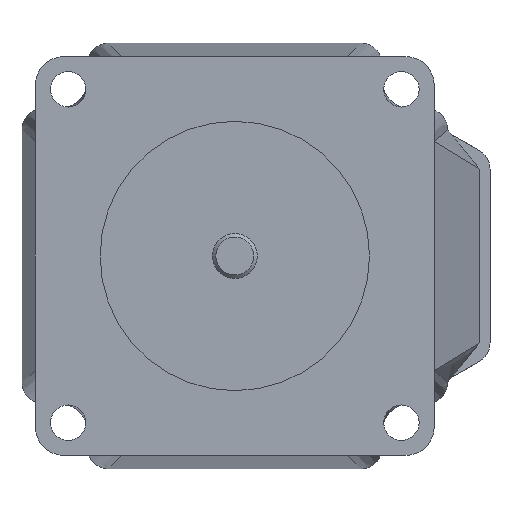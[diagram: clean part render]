
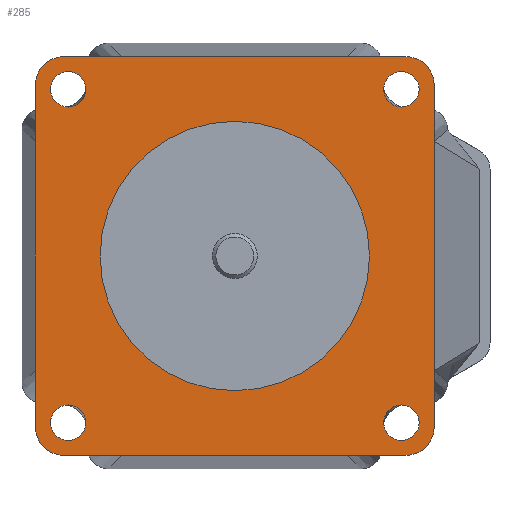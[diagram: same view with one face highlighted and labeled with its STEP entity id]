
A CAD part, left-side view. The second image highlights one B-rep face of the part: STEP entity #285.
In plain terms, the highlighted planar face has unit normal (-1, 0, 0).
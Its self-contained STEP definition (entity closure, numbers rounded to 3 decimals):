
#285 = ADVANCED_FACE( '', ( #781, #782, #783, #784, #785, #786 ), #787, .T. );
#781 = FACE_BOUND( '', #2932, .T. );
#782 = FACE_BOUND( '', #2933, .T. );
#783 = FACE_BOUND( '', #2934, .T. );
#784 = FACE_BOUND( '', #2935, .T. );
#785 = FACE_OUTER_BOUND( '', #2936, .T. );
#786 = FACE_BOUND( '', #2937, .T. );
#787 = PLANE( '', #2938 );
#2932 = EDGE_LOOP( '', ( #4414 ) );
#2933 = EDGE_LOOP( '', ( #4415 ) );
#2934 = EDGE_LOOP( '', ( #4416 ) );
#2935 = EDGE_LOOP( '', ( #4417 ) );
#2936 = EDGE_LOOP( '', ( #4418, #4419, #4420, #4421, #4422, #4423, #4424, #4425 ) );
#2937 = EDGE_LOOP( '', ( #4426 ) );
#2938 = AXIS2_PLACEMENT_3D( '', #4427, #4428, #4429 );
#4414 = ORIENTED_EDGE( '', *, *, #4707, .F. );
#4415 = ORIENTED_EDGE( '', *, *, #4709, .F. );
#4416 = ORIENTED_EDGE( '', *, *, #4711, .F. );
#4417 = ORIENTED_EDGE( '', *, *, #4713, .F. );
#4418 = ORIENTED_EDGE( '', *, *, #4488, .T. );
#4419 = ORIENTED_EDGE( '', *, *, #4741, .T. );
#4420 = ORIENTED_EDGE( '', *, *, #4853, .T. );
#4421 = ORIENTED_EDGE( '', *, *, #4737, .T. );
#4422 = ORIENTED_EDGE( '', *, *, #4839, .T. );
#4423 = ORIENTED_EDGE( '', *, *, #4733, .T. );
#4424 = ORIENTED_EDGE( '', *, *, #4810, .T. );
#4425 = ORIENTED_EDGE( '', *, *, #4729, .T. );
#4426 = ORIENTED_EDGE( '', *, *, #4727, .F. );
#4427 = CARTESIAN_POINT( '', ( -98., 24.2, 24.2 ) );
#4428 = DIRECTION( '', ( -1., 0., 0. ) );
#4429 = DIRECTION( '', ( 0., 0., 1. ) );
#4488 = EDGE_CURVE( '', #4987, #4985, #4988, .T. );
#4707 = EDGE_CURVE( '', #5368, #5368, #5369, .T. );
#4709 = EDGE_CURVE( '', #5372, #5372, #5373, .T. );
#4711 = EDGE_CURVE( '', #5376, #5376, #5377, .T. );
#4713 = EDGE_CURVE( '', #5380, #5380, #5381, .T. );
#4727 = EDGE_CURVE( '', #5405, #5405, #5406, .T. );
#4729 = EDGE_CURVE( '', #5409, #4987, #5410, .T. );
#4733 = EDGE_CURVE( '', #5417, #5415, #5418, .T. );
#4737 = EDGE_CURVE( '', #5425, #5423, #5426, .T. );
#4741 = EDGE_CURVE( '', #4985, #5430, #5432, .T. );
#4810 = EDGE_CURVE( '', #5415, #5409, #5548, .T. );
#4839 = EDGE_CURVE( '', #5423, #5417, #5593, .T. );
#4853 = EDGE_CURVE( '', #5430, #5425, #5615, .T. );
#4985 = VERTEX_POINT( '', #5826 );
#4987 = VERTEX_POINT( '', #5829 );
#4988 = LINE( '', #5830, #5831 );
#5368 = VERTEX_POINT( '', #6391 );
#5369 = CIRCLE( '', #6392, 2.5 );
#5372 = VERTEX_POINT( '', #6395 );
#5373 = CIRCLE( '', #6396, 2.5 );
#5376 = VERTEX_POINT( '', #6399 );
#5377 = CIRCLE( '', #6400, 2.5 );
#5380 = VERTEX_POINT( '', #6403 );
#5381 = CIRCLE( '', #6404, 2.5 );
#5405 = VERTEX_POINT( '', #6436 );
#5406 = CIRCLE( '', #6437, 19.05 );
#5409 = VERTEX_POINT( '', #6440 );
#5410 = CIRCLE( '', #6441, 4. );
#5415 = VERTEX_POINT( '', #6447 );
#5417 = VERTEX_POINT( '', #6450 );
#5418 = CIRCLE( '', #6451, 4. );
#5423 = VERTEX_POINT( '', #6457 );
#5425 = VERTEX_POINT( '', #6460 );
#5426 = CIRCLE( '', #6461, 4. );
#5430 = VERTEX_POINT( '', #6466 );
#5432 = CIRCLE( '', #6469, 4. );
#5548 = LINE( '', #6721, #6722 );
#5593 = LINE( '', #6839, #6840 );
#5615 = LINE( '', #6903, #6904 );
#5826 = CARTESIAN_POINT( '', ( -98., 24.2, 28.2 ) );
#5829 = CARTESIAN_POINT( '', ( -98., -24.2, 28.2 ) );
#5830 = CARTESIAN_POINT( '', ( -98., -20.641, 28.2 ) );
#5831 = VECTOR( '', #7038, 1000. );
#6391 = CARTESIAN_POINT( '', ( -98., 23.57, 21.07 ) );
#6392 = AXIS2_PLACEMENT_3D( '', #7382, #7383, #7384 );
#6395 = CARTESIAN_POINT( '', ( -98., 23.57, -26.07 ) );
#6396 = AXIS2_PLACEMENT_3D( '', #7388, #7389, #7390 );
#6399 = CARTESIAN_POINT( '', ( -98., -23.57, -26.07 ) );
#6400 = AXIS2_PLACEMENT_3D( '', #7394, #7395, #7396 );
#6403 = CARTESIAN_POINT( '', ( -98., -23.57, 21.07 ) );
#6404 = AXIS2_PLACEMENT_3D( '', #7400, #7401, #7402 );
#6436 = CARTESIAN_POINT( '', ( -98., -19.05, 0. ) );
#6437 = AXIS2_PLACEMENT_3D( '', #7429, #7430, #7431 );
#6440 = CARTESIAN_POINT( '', ( -98., -28.2, 24.2 ) );
#6441 = AXIS2_PLACEMENT_3D( '', #7435, #7436, #7437 );
#6447 = CARTESIAN_POINT( '', ( -98., -28.2, -24.2 ) );
#6450 = CARTESIAN_POINT( '', ( -98., -24.2, -28.2 ) );
#6451 = AXIS2_PLACEMENT_3D( '', #7443, #7444, #7445 );
#6457 = CARTESIAN_POINT( '', ( -98., 24.2, -28.2 ) );
#6460 = CARTESIAN_POINT( '', ( -98., 28.2, -24.2 ) );
#6461 = AXIS2_PLACEMENT_3D( '', #7451, #7452, #7453 );
#6466 = CARTESIAN_POINT( '', ( -98., 28.2, 24.2 ) );
#6469 = AXIS2_PLACEMENT_3D( '', #7459, #7460, #7461 );
#6721 = CARTESIAN_POINT( '', ( -98., -28.2, -20.641 ) );
#6722 = VECTOR( '', #7521, 1000. );
#6839 = CARTESIAN_POINT( '', ( -98., 24.2, -28.2 ) );
#6840 = VECTOR( '', #7532, 1000. );
#6903 = CARTESIAN_POINT( '', ( -98., 28.2, 24.2 ) );
#6904 = VECTOR( '', #7535, 1000. );
#7038 = DIRECTION( '', ( 0., 1., 0. ) );
#7382 = CARTESIAN_POINT( '', ( -98., 23.57, 23.57 ) );
#7383 = DIRECTION( '', ( -1., 0., 0. ) );
#7384 = DIRECTION( '', ( 0., 0., -1. ) );
#7388 = CARTESIAN_POINT( '', ( -98., 23.57, -23.57 ) );
#7389 = DIRECTION( '', ( -1., 0., 0. ) );
#7390 = DIRECTION( '', ( 0., 0., -1. ) );
#7394 = CARTESIAN_POINT( '', ( -98., -23.57, -23.57 ) );
#7395 = DIRECTION( '', ( -1., 0., 0. ) );
#7396 = DIRECTION( '', ( 0., 0., -1. ) );
#7400 = CARTESIAN_POINT( '', ( -98., -23.57, 23.57 ) );
#7401 = DIRECTION( '', ( -1., 0., 0. ) );
#7402 = DIRECTION( '', ( 0., 0., -1. ) );
#7429 = CARTESIAN_POINT( '', ( -98., 0., 0. ) );
#7430 = DIRECTION( '', ( -1., 0., 0. ) );
#7431 = DIRECTION( '', ( 0., -1., 0. ) );
#7435 = CARTESIAN_POINT( '', ( -98., -24.2, 24.2 ) );
#7436 = DIRECTION( '', ( -1., 0., 0. ) );
#7437 = DIRECTION( '', ( 0., -1., 0. ) );
#7443 = CARTESIAN_POINT( '', ( -98., -24.2, -24.2 ) );
#7444 = DIRECTION( '', ( -1., 0., 0. ) );
#7445 = DIRECTION( '', ( 0., 1., 0. ) );
#7451 = CARTESIAN_POINT( '', ( -98., 24.2, -24.2 ) );
#7452 = DIRECTION( '', ( -1., 0., 0. ) );
#7453 = DIRECTION( '', ( 0., -1., 0. ) );
#7459 = CARTESIAN_POINT( '', ( -98., 24.2, 24.2 ) );
#7460 = DIRECTION( '', ( -1., 0., 0. ) );
#7461 = DIRECTION( '', ( 0., -1., 0. ) );
#7521 = DIRECTION( '', ( 0., 0., 1. ) );
#7532 = DIRECTION( '', ( 0., -1., 0. ) );
#7535 = DIRECTION( '', ( 0., 0., -1. ) );
